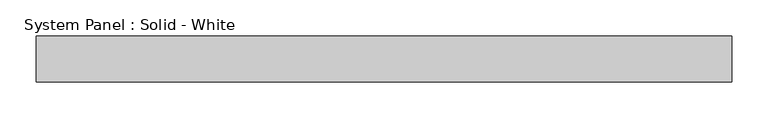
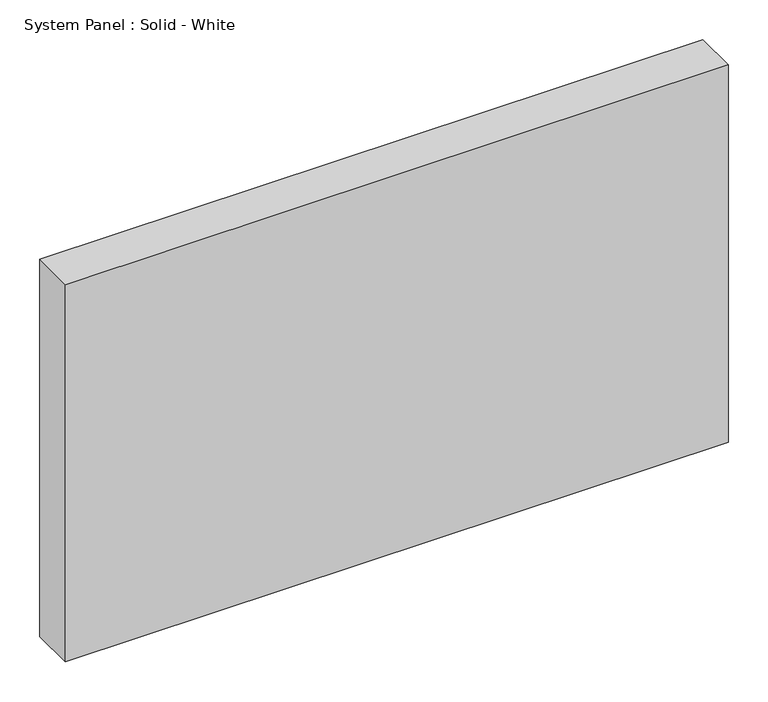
"""IFC4 building model written with IfcOpenShell, lengths in millimetres: plate geometry, System Panel : Solid - White."""

from ifc_helpers import new_model, si_unit, origin, origin_with_axes, place, context, project, spatial, polyline, outline, extrude, source, transform, mapped, element, save


def system_panel_solid_white_36fd709e(model_context):
    return source(origin(), model_context, "Body", "SweptSolid", [
        extrude(outline(polyline([(480.2846853, -19.05), (-480.2846853, -19.05), (-480.2846853, 44.45), (480.2846853, 44.45), (480.2846853, -19.05)])), origin_with_axes(), (0.0, 0.0, 1.0), 577.85),
    ])


if __name__ == "__main__":
    model = new_model("IFC4")
    model_context = context("Model", 3, world=origin())
    ifc_project = project(units=[si_unit("LENGTHUNIT", "METRE", prefix="MILLI")], contexts=[model_context])
    site = spatial("IfcSite", under=ifc_project)
    building = spatial("IfcBuilding", under=site)
    placement = place(None, origin())
    system_panel_solid_white_shape = system_panel_solid_white_36fd709e(model_context)
    element("IfcPlate", 1, ObjectType="System Panel : Solid - White", at=placement, inside=building, context=model_context, shape_type="MappedRepresentation", body=[
        mapped(system_panel_solid_white_shape, transform((0.0, 0.0, 0.0), x_axis=(1.0, 0.0, 0.0), y_axis=(0.0, 1.0, 0.0), z_axis=(0.0, 0.0, 1.0))),
    ])
    save(model, "model.ifc")
